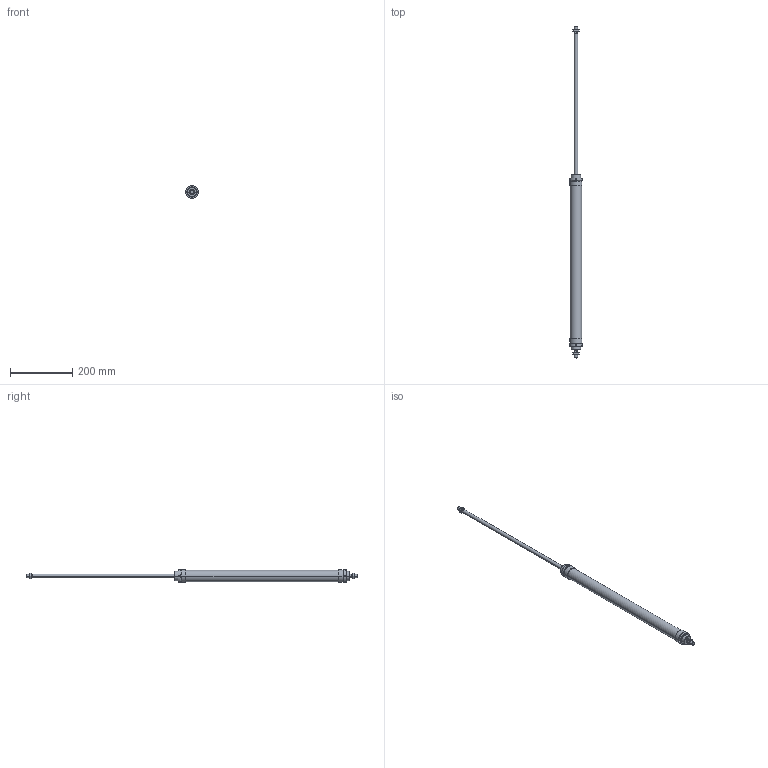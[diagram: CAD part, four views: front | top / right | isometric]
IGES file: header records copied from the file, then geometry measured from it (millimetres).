
Global section: file name: No Iges File Name specified; native system: AutoDesk Inventor R6.0; preprocessor: AutoDesk Inventor Iges Exporter R6.0; author: No Author specified; organization: No Organization specified; date: 20030403.072735; units: millimetre
Bounding box: 41.7 x 1065 x 41.7 mm (x, y, z)
Volume: 633536.6 mm3; surface area: 135736.8 mm2
Topology: 6 solids, 6 shells, 182 faces, 424 edges, 264 vertices
Faces by surface type: plane 66, cone 52, bspline 30, cylinder 28, revolution 6
